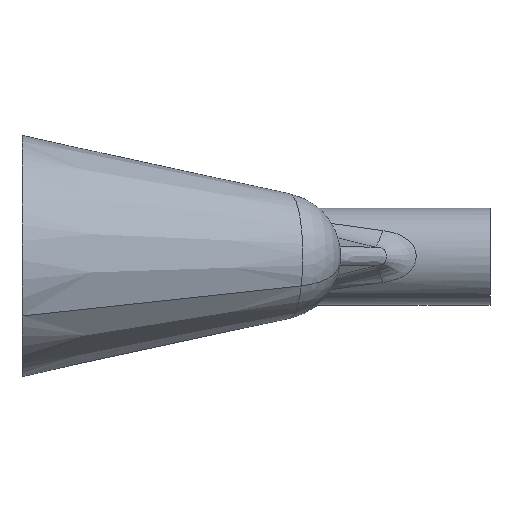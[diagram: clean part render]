
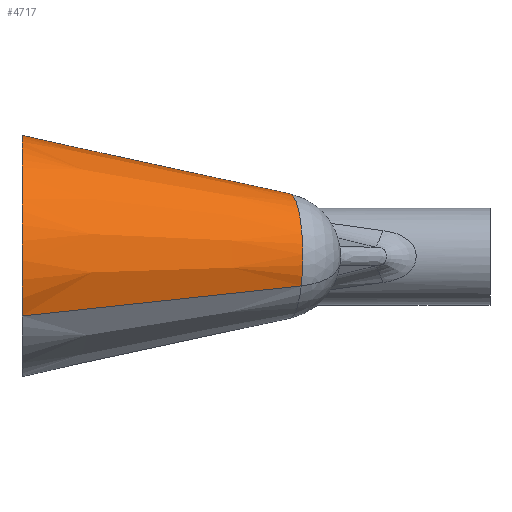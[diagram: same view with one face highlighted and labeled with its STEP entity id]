
A CAD part, top view. The second image highlights one B-rep face of the part: STEP entity #4717.
In plain terms, the highlighted conical face has half-angle 12 degrees and reference radius 16.112 mm.
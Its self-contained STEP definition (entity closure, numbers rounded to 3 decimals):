
#4689=AXIS2_PLACEMENT_3D('Cone Axis2P3D',#4686,#4687,#4688) ;
#4700=AXIS2_PLACEMENT_3D('Circle Axis2P3D',#4698,#4699,$) ;
#2289=CARTESIAN_POINT('Vertex',(-121.,-15.555,135.169)) ;
#2293=CARTESIAN_POINT('Control Point',(-121.,-15.555,135.169)) ;
#2294=CARTESIAN_POINT('Control Point',(-121.,-14.158,135.992)) ;
#2295=CARTESIAN_POINT('Control Point',(-121.,-12.706,136.724)) ;
#2296=CARTESIAN_POINT('Control Point',(-121.,-11.207,137.359)) ;
#2297=CARTESIAN_POINT('Control Point',(-121.,-7.304,138.718)) ;
#2298=CARTESIAN_POINT('Control Point',(-121.,-3.211,139.408)) ;
#2299=CARTESIAN_POINT('Control Point',(-121.,-0.694,139.569)) ;
#2300=CARTESIAN_POINT('Control Point',(-121.,3.983,139.385)) ;
#2301=CARTESIAN_POINT('Control Point',(-121.,8.532,138.323)) ;
#2302=CARTESIAN_POINT('Control Point',(-121.,10.585,137.648)) ;
#2303=CARTESIAN_POINT('Control Point',(-121.,14.577,135.936)) ;
#2304=CARTESIAN_POINT('Control Point',(-121.,18.205,133.562)) ;
#2305=CARTESIAN_POINT('Control Point',(-121.,19.921,132.212)) ;
#2306=CARTESIAN_POINT('Control Point',(-121.,23.129,129.202)) ;
#2307=CARTESIAN_POINT('Control Point',(-121.,25.767,125.696)) ;
#2308=CARTESIAN_POINT('Control Point',(-121.,26.94,123.816)) ;
#2309=CARTESIAN_POINT('Control Point',(-121.,29.141,119.51)) ;
#2310=CARTESIAN_POINT('Control Point',(-121.,30.507,114.881)) ;
#2311=CARTESIAN_POINT('Control Point',(-121.,30.993,112.304)) ;
#2312=CARTESIAN_POINT('Control Point',(-121.,31.447,107.078)) ;
#2313=CARTESIAN_POINT('Control Point',(-121.,30.863,101.881)) ;
#2314=CARTESIAN_POINT('Control Point',(-121.,30.309,99.315)) ;
#2315=CARTESIAN_POINT('Control Point',(-121.,28.704,94.35)) ;
#2316=CARTESIAN_POINT('Control Point',(-121.,26.15,89.815)) ;
#2317=CARTESIAN_POINT('Control Point',(-121.,24.655,87.692)) ;
#2318=CARTESIAN_POINT('Control Point',(-121.,22.593,85.319)) ;
#2319=CARTESIAN_POINT('Control Point',(-121.,20.268,83.23)) ;
#2320=CARTESIAN_POINT('Control Point',(-121.,19.849,82.871)) ;
#2321=CARTESIAN_POINT('Control Point',(-121.,19.423,82.521)) ;
#2322=CARTESIAN_POINT('Control Point',(-121.,18.989,82.18)) ;
#2323=CARTESIAN_POINT('Vertex',(-121.,18.989,82.18)) ;
#4659=CARTESIAN_POINT('Control Point',(-57.452,8.,77.581)) ;
#4660=CARTESIAN_POINT('Control Point',(-66.245,9.426,78.09)) ;
#4661=CARTESIAN_POINT('Control Point',(-75.037,10.902,78.657)) ;
#4662=CARTESIAN_POINT('Control Point',(-83.799,12.405,79.268)) ;
#4663=CARTESIAN_POINT('Control Point',(-96.515,14.622,80.208)) ;
#4664=CARTESIAN_POINT('Control Point',(-109.224,16.879,81.214)) ;
#4665=CARTESIAN_POINT('Control Point',(-113.15,17.58,81.531)) ;
#4666=CARTESIAN_POINT('Control Point',(-117.076,18.283,81.853)) ;
#4667=CARTESIAN_POINT('Control Point',(-121.,18.989,82.18)) ;
#4668=CARTESIAN_POINT('Vertex',(-57.452,8.,77.581)) ;
#4686=CARTESIAN_POINT('Axis2P3D Location',(-51.759,0.,91.342)) ;
#4691=CARTESIAN_POINT('Line Origine',(-86.393,-11.801,120.788)) ;
#4695=CARTESIAN_POINT('Vertex',(-48.819,-7.724,105.173)) ;
#4698=CARTESIAN_POINT('Axis2P3D Location',(-51.759,0.,91.342)) ;
#4702=CARTESIAN_POINT('Vertex',(-54.698,7.724,77.512)) ;
#4705=CARTESIAN_POINT('Line Origine',(-95.376,11.801,78.53)) ;
#4687=DIRECTION('Axis2P3D Direction',(-0.978,-0.,0.208)) ;
#4688=DIRECTION('Axis2P3D XDirection',(-0.182,0.479,-0.858)) ;
#4692=DIRECTION('Vector Direction',(-0.919,-0.1,0.382)) ;
#4699=DIRECTION('Axis2P3D Direction',(-0.978,0.,0.208)) ;
#4706=DIRECTION('Vector Direction',(-0.995,0.1,0.025)) ;
#4693=VECTOR('Line Direction',#4692,1.) ;
#4707=VECTOR('Line Direction',#4706,1.) ;
#4711=ORIENTED_EDGE('',*,*,#2325,.F.) ;
#4712=ORIENTED_EDGE('',*,*,#4697,.F.) ;
#4713=ORIENTED_EDGE('',*,*,#4704,.F.) ;
#4714=ORIENTED_EDGE('',*,*,#4709,.T.) ;
#4715=ORIENTED_EDGE('',*,*,#4670,.T.) ;
#4717=ADVANCED_FACE('Corps principal',(#4716),#4690,.T.) ;
#2292=B_SPLINE_CURVE_WITH_KNOTS('',5,(#2293,#2294,#2295,#2296,#2297,#2298,#2299,#2300,#2301,#2302,#2303,#2304,#2305,#2306,#2307,#2308,#2309,#2310,#2311,#2312,#2313,#2314,#2315,#2316,#2317,#2318,#2319,#2320,#2321,#2322),.UNSPECIFIED.,.F.,.U.,(6,3,3,3,3,3,3,3,3,6),(125.564,135.753,151.432,164.913,178.593,192.558,209.173,225.922,242.563,246.13),.UNSPECIFIED.) ;
#4658=B_SPLINE_CURVE_WITH_KNOTS('',5,(#4659,#4660,#4661,#4662,#4663,#4664,#4665,#4666,#4667),.UNSPECIFIED.,.F.,.U.,(6,3,6),(0.,63.293,91.607),.UNSPECIFIED.) ;
#4701=CIRCLE('generated circle',#4700,16.112) ;
#4690=CONICAL_SURFACE('Cone',#4689,16.112,0.209) ;
#2325=EDGE_CURVE('',#2290,#2324,#2292,.T.) ;
#4670=EDGE_CURVE('',#4669,#2324,#4658,.T.) ;
#4697=EDGE_CURVE('',#4696,#2290,#4694,.T.) ;
#4704=EDGE_CURVE('',#4703,#4696,#4701,.F.) ;
#4709=EDGE_CURVE('',#4703,#4669,#4708,.T.) ;
#4710=EDGE_LOOP('',(#4711,#4712,#4713,#4714,#4715)) ;
#4716=FACE_OUTER_BOUND('',#4710,.T.) ;
#4694=LINE('Line',#4691,#4693) ;
#4708=LINE('Line',#4705,#4707) ;
#2290=VERTEX_POINT('',#2289) ;
#2324=VERTEX_POINT('',#2323) ;
#4669=VERTEX_POINT('',#4668) ;
#4696=VERTEX_POINT('',#4695) ;
#4703=VERTEX_POINT('',#4702) ;
